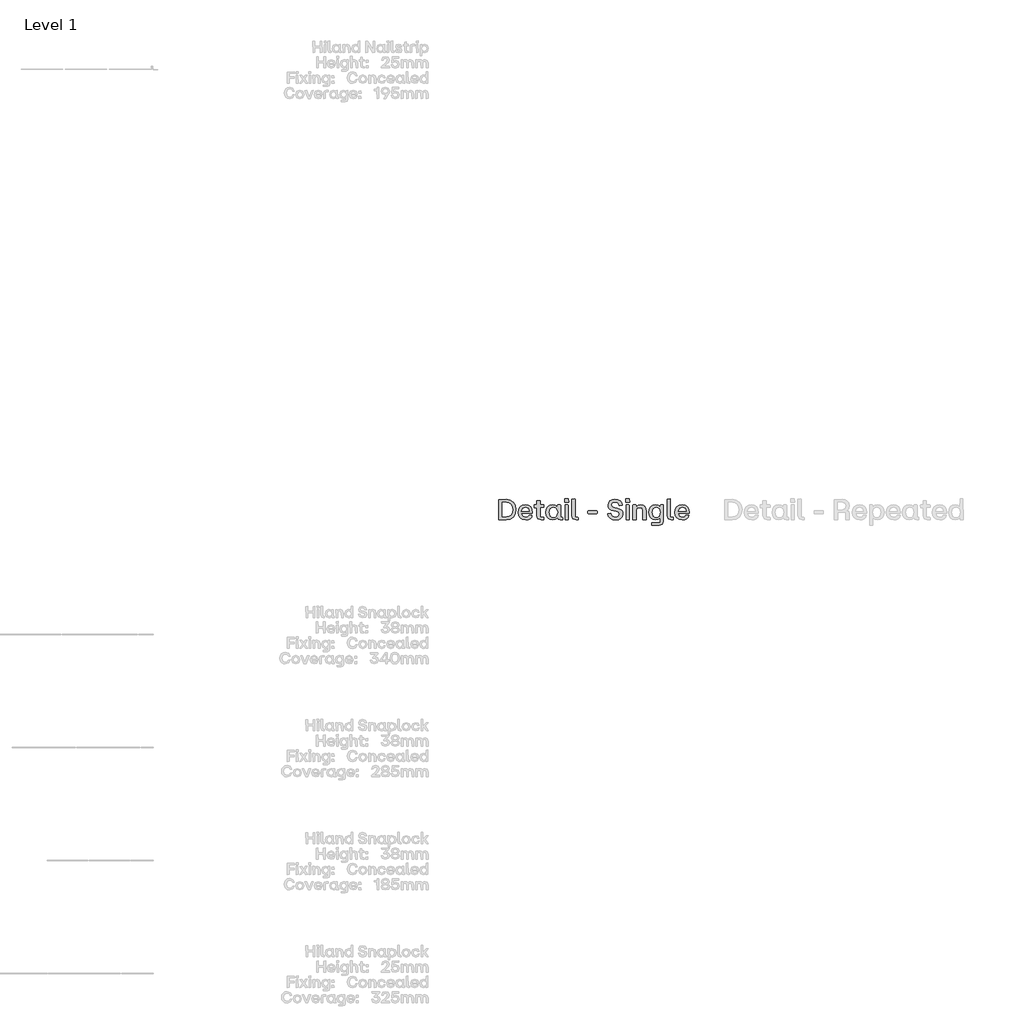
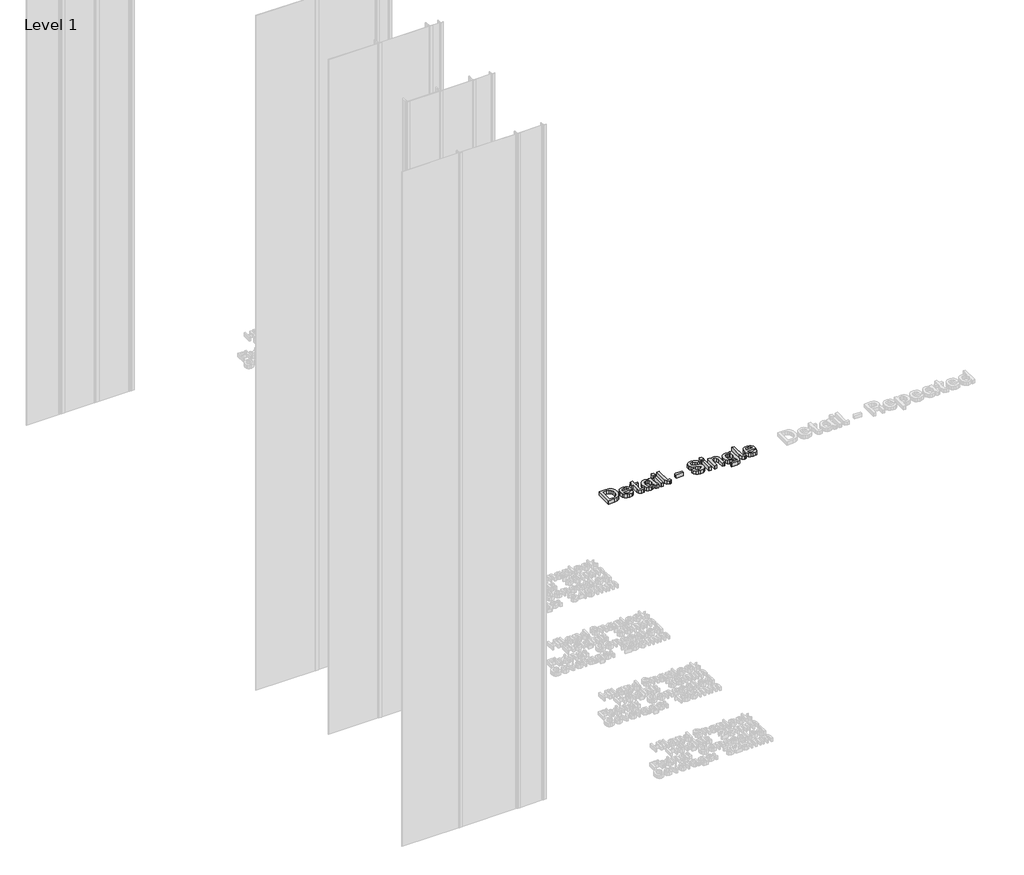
# One storey, part 22 of 64: 1 proxy.
"""IFC4 building model written with IfcOpenShell, lengths in millimetres."""

from ifc_helpers import new_model, si_unit, origin, origin_with_axes, place, context, project, spatial, polyline, outline, extrude, element, save

model = new_model("IFC4")

# Units and contexts
model_context = context("Model", 3, world=origin())
ifc_project = project(units=[si_unit("LENGTHUNIT", "METRE", prefix="MILLI")], contexts=[model_context])

# Site, building, storey
site = spatial("IfcSite", under=ifc_project)
building = spatial("IfcBuilding", under=site)
storey = spatial("IfcBuildingStorey", under=building, Name="Level 1", Elevation=0.0)

# Proxy
placement = place(None, origin())
element("IfcBuildingElementProxy", 1, Name="90mm", ObjectType="90mm", at=placement, inside=storey, context=model_context, shape_type="SweptSolid", body=[
    extrude(outline(polyline([(3310.2926176, -6500.0), (3308.9872124, -6498.7448027), (3308.9872124, -6411.3077612), (3342.5511873, -6410.002356), (3360.5475781, -6413.0054155), (3374.1193986, -6422.0145938), (3382.63905, -6436.3583606), (3385.4789338, -6455.3651852), (3382.648464, -6474.2025582), (3374.1570545, -6488.2890095), (3360.594648, -6497.0722524), (3342.5511873, -6500.0), (3310.2926176, -6500.0)]), holes=[polyline([(3323.7985402, -6487.3727155), (3341.6725492, -6487.3727155), (3353.8950326, -6485.311054), (3362.9481429, -6479.1260695), (3368.5494607, -6469.0625254), (3370.4165666, -6455.3651852), (3368.5431847, -6441.5109454), (3362.923039, -6431.1775339), (3353.8636527, -6424.7477859), (3341.6725492, -6422.6045366), (3323.7985402, -6422.6045366), (3323.7985402, -6487.3727155)])]), origin_with_axes(), (0.0, 0.0, 1.0), 20.0),
    extrude(outline(polyline([(3427.628458, -6500.7531184), (3414.0409476, -6498.4843493), (3403.5035666, -6491.6780421), (3396.7443293, -6481.0622112), (3394.4912502, -6467.3648711), (3396.7349153, -6453.5012173), (3403.4659107, -6442.7881086), (3413.9938777, -6435.9347315), (3427.628458, -6433.6502725), (3440.1584647, -6435.9033516), (3449.7324819, -6442.6625889), (3455.8044987, -6453.3129377), (3457.8285043, -6467.2393514), (3457.8285043, -6470.6785919), (3456.573307, -6472.009101), (3409.1268503, -6472.009101), (3414.6497183, -6484.6865934), (3427.628458, -6489.2053035), (3438.0465953, -6486.9082925), (3443.4439436, -6480.4691305), (3444.8246606, -6479.4147648), (3456.1967478, -6479.4147648), (3454.1633282, -6488.7314665), (3447.8120301, -6495.1925945), (3438.8248176, -6499.3629874), (3427.628458, -6500.7531184)]), holes=[polyline([(3409.2523701, -6461.5909637), (3443.8205028, -6461.5909637), (3439.0633051, -6449.6289337), (3427.628458, -6445.2733992), (3414.8631018, -6449.4155502), (3409.2523701, -6461.5909637)])]), origin_with_axes(), (0.0, 0.0, 1.0), 20.0),
    extrude(outline(polyline([(3496.6140998, -6500.0), (3482.731618, -6495.2302504), (3477.9618684, -6481.3477686), (3477.9618684, -6445.7754781), (3466.7906127, -6445.7754781), (3465.4852076, -6435.7339), (3466.7906127, -6434.4787027), (3477.9618684, -6434.4787027), (3477.9618684, -6416.45407), (3479.2170657, -6415.1486648), (3490.9657121, -6415.1486648), (3492.2209094, -6416.45407), (3492.2209094, -6434.4787027), (3508.0363949, -6434.4787027), (3509.3418001, -6435.7339), (3509.3418001, -6444.444969), (3492.2209094, -6445.7754781), (3492.2209094, -6488.7032246), (3508.0363949, -6488.7032246), (3509.3418001, -6489.9584219), (3509.3418001, -6498.7448027), (3508.0363949, -6500.0), (3496.6140998, -6500.0)])), origin_with_axes(), (0.0, 0.0, 1.0), 20.0),
    extrude(outline(polyline([(3547.2738615, -6500.7531184), (3535.3243835, -6498.4843493), (3526.0861316, -6491.6780421), (3520.1741525, -6481.0622112), (3518.2034928, -6467.3648711), (3520.1741525, -6453.5325972), (3526.0861316, -6442.8132125), (3535.3243835, -6435.9410075), (3547.2738615, -6433.6502725), (3559.1856835, -6436.5372262), (3568.160344, -6444.444969), (3568.7377347, -6435.7339), (3569.992932, -6434.4787027), (3581.6662665, -6434.4787027), (3582.9716717, -6435.7339), (3582.9716717, -6488.7032246), (3590.0760882, -6488.7032246), (3591.3312855, -6489.9584219), (3591.3312855, -6498.7448027), (3590.0760882, -6500.0), (3580.536589, -6500.0), (3572.1581473, -6497.6465051), (3569.3653333, -6490.5860205), (3559.7254183, -6497.8661646), (3547.2738615, -6500.7531184)]), holes=[polyline([(3532.7135732, -6467.3648711), (3537.6716024, -6483.3686362), (3543.5365116, -6487.7461367), (3551.2151809, -6489.2053035), (3558.7714684, -6487.7524127), (3564.470064, -6483.3937402), (3569.2398136, -6467.3648711), (3564.4324081, -6451.1728263), (3558.7243985, -6446.748256), (3551.2151809, -6445.2733992), (3543.5365116, -6446.748256), (3537.6716024, -6451.1728263), (3532.7135732, -6467.3648711)])]), origin_with_axes(), (0.0, 0.0, 1.0), 20.0),
    extrude(outline(polyline([(3603.6824266, -6500.0), (3602.3770214, -6498.7448027), (3602.3770214, -6435.7339), (3603.6824266, -6434.4787027), (3615.3557612, -6434.4787027), (3616.6109584, -6435.7339), (3616.6109584, -6498.7448027), (3615.3557612, -6500.0), (3603.6824266, -6500.0)])), origin_with_axes(), (0.0, 0.0, 1.0), 20.0),
    extrude(outline(polyline([(3601.3728636, -6421.8514182), (3601.3728636, -6407.9940404), (3602.6280609, -6406.6635313), (3616.4854387, -6406.6635313), (3617.8159478, -6421.8514182), (3616.4854387, -6423.1066155), (3602.6280609, -6423.1066155), (3601.3728636, -6421.8514182)])), origin_with_axes(), (0.0, 0.0, 1.0), 20.0),
    extrude(outline(polyline([(3651.5305464, -6500.0), (3637.6731686, -6495.2302504), (3632.903419, -6481.3477686), (3632.903419, -6408.7471587), (3645.8821587, -6407.4166496), (3647.137356, -6408.7471587), (3647.137356, -6488.7032246), (3659.1370418, -6488.7032246), (3660.3922391, -6489.9584219), (3660.3922391, -6498.7448027), (3659.1370418, -6500.0), (3651.5305464, -6500.0)])), origin_with_axes(), (0.0, 0.0, 1.0), 20.0),
    extrude(outline(polyline([(3705.1776775, -6472.887739), (3703.9224803, -6471.5572299), (3703.9224803, -6461.5909637), (3705.1776775, -6460.2604546), (3743.7875455, -6460.2604546), (3745.0427427, -6461.5909637), (3745.0427427, -6471.5572299), (3743.7875455, -6472.887739), (3705.1776775, -6472.887739)])), origin_with_axes(), (0.0, 0.0, 1.0), 20.0),
    extrude(outline(polyline([(3826.3293177, -6500.7531184), (3812.5598037, -6498.9017024), (3801.8780749, -6493.3474545), (3794.6167588, -6484.372794), (3791.1084824, -6472.2601404), (3804.3633655, -6470.8041116), (3805.6687707, -6472.009101), (3811.8568932, -6484.5610736), (3826.3293177, -6488.4521852), (3838.8436344, -6484.8748729), (3843.3246887, -6474.9462626), (3840.2243514, -6466.6996165), (3829.84387, -6462.5951215), (3817.9697039, -6460.511494), (3806.9647619, -6457.2573951), (3799.104089, -6451.9384967), (3794.3876853, -6444.5547988), (3792.8155507, -6435.1063013), (3794.8301423, -6424.2645349), (3800.8739171, -6416.0900628), (3810.5263841, -6410.9594439), (3823.3670521, -6409.2492376), (3836.1010284, -6410.9814099), (3846.0359148, -6416.1779266), (3852.826532, -6424.5312644), (3856.1277008, -6435.7339), (3842.9481295, -6437.1648249), (3841.5172046, -6435.7339), (3835.7056413, -6425.0270673), (3823.3670521, -6421.6003787), (3811.6058538, -6424.7383719), (3807.5515666, -6433.901312), (3811.1665347, -6442.599829), (3822.4884141, -6447.1561951), (3834.2872684, -6449.2147186), (3845.1070688, -6452.3840917), (3852.4625248, -6457.4739166), (3856.6799876, -6464.8042687), (3858.0858085, -6474.6952231), (3855.9739391, -6485.6091633), (3849.6383309, -6493.8495334), (3839.5873388, -6499.0272221), (3826.3293177, -6500.7531184)])), origin_with_axes(), (0.0, 0.0, 1.0), 20.0),
    extrude(outline(polyline([(3871.2904838, -6421.8514182), (3871.2904838, -6407.9940404), (3872.545681, -6406.6635313), (3886.4030589, -6406.6635313), (3887.733568, -6421.8514182), (3886.4030589, -6423.1066155), (3872.545681, -6423.1066155), (3871.2904838, -6421.8514182)])), origin_with_axes(), (0.0, 0.0, 1.0), 20.0),
    extrude(outline(polyline([(3873.6000467, -6500.0), (3872.2946416, -6498.7448027), (3872.2946416, -6435.7339), (3873.6000467, -6434.4787027), (3885.2733813, -6434.4787027), (3886.5285786, -6435.7339), (3886.5285786, -6498.7448027), (3885.2733813, -6500.0), (3873.6000467, -6500.0)])), origin_with_axes(), (0.0, 0.0, 1.0), 20.0),
    extrude(outline(polyline([(3904.1264443, -6500.0), (3902.8210391, -6498.7448027), (3902.8210391, -6435.7339), (3904.1264443, -6434.4787027), (3915.1721802, -6434.4787027), (3916.4273775, -6435.7339), (3916.4273775, -6444.444969), (3925.7221132, -6436.3489466), (3937.6402113, -6433.6502725), (3947.5656836, -6435.5330684), (3954.8489658, -6441.1814561), (3959.320606, -6450.4573639), (3960.8111528, -6463.2227201), (3960.8111528, -6498.7448027), (3959.4806437, -6500.0), (3947.8073091, -6500.0), (3946.501904, -6498.7448027), (3946.501904, -6463.2227201), (3942.9873516, -6449.942733), (3931.8788558, -6445.7754781), (3920.6699442, -6450.0054929), (3917.0549761, -6463.2227201), (3917.0549761, -6498.7448027), (3915.7997788, -6500.0), (3904.1264443, -6500.0)])), origin_with_axes(), (0.0, 0.0, 1.0), 20.0),
    extrude(outline(polyline([(3986.5175928, -6524.4010349), (3985.1870837, -6523.1458376), (3985.1870837, -6514.3594567), (3986.5175928, -6513.1042595), (4023.4203924, -6513.1042595), (4023.4203924, -6489.9584219), (4013.8683412, -6497.8661646), (4001.9565192, -6500.7531184), (3990.0070412, -6498.4686593), (3980.7687893, -6491.6152823), (3974.8568102, -6480.9210016), (3972.8861505, -6467.1138316), (3974.8568102, -6453.3913875), (3980.7687893, -6442.7504527), (3990.0070412, -6435.9253176), (4001.9565192, -6433.6502725), (4014.4080761, -6436.5372262), (4023.5459122, -6444.3194493), (4024.0479911, -6435.7339), (4025.3031883, -6434.4787027), (4036.3489243, -6434.4787027), (4037.6543294, -6435.7339), (4037.6543294, -6506.4015061), (4033.0100996, -6519.7944609), (4019.6548006, -6524.4010349), (3986.5175928, -6524.4010349)]), holes=[polyline([(3987.3962309, -6467.1138316), (3992.3542601, -6483.3058764), (3998.2191693, -6487.7304467), (4005.8978386, -6489.2053035), (4013.4070562, -6487.7304467), (4019.1150658, -6483.3058764), (4023.9224713, -6467.1138316), (4019.1527217, -6451.0724106), (4013.4541261, -6446.723152), (4005.8978386, -6445.2733992), (3998.2191693, -6446.732566), (3992.3542601, -6451.1100665), (3987.3962309, -6467.1138316)])]), origin_with_axes(), (0.0, 0.0, 1.0), 20.0),
    extrude(outline(polyline([(4072.4735016, -6500.0), (4058.6161238, -6495.2302504), (4053.8463742, -6481.3477686), (4053.8463742, -6408.7471587), (4066.8251139, -6407.4166496), (4068.0803112, -6408.7471587), (4068.0803112, -6488.7032246), (4080.079997, -6488.7032246), (4081.3351943, -6489.9584219), (4081.3351943, -6498.7448027), (4080.079997, -6500.0), (4072.4735016, -6500.0)])), origin_with_axes(), (0.0, 0.0, 1.0), 20.0),
    extrude(outline(polyline([(4121.7023384, -6500.7531184), (4108.114828, -6498.4843493), (4097.5774469, -6491.6780421), (4090.8182097, -6481.0622112), (4088.5651306, -6467.3648711), (4090.8087957, -6453.5012173), (4097.539791, -6442.7881086), (4108.0677581, -6435.9347315), (4121.7023384, -6433.6502725), (4134.2323451, -6435.9033516), (4143.8063622, -6442.6625889), (4149.878379, -6453.3129377), (4151.9023846, -6467.2393514), (4151.9023846, -6470.6785919), (4150.6471873, -6472.009101), (4103.2007307, -6472.009101), (4108.7235987, -6484.6865934), (4121.7023384, -6489.2053035), (4132.1204757, -6486.9082925), (4137.5178239, -6480.4691305), (4138.8985409, -6479.4147648), (4150.2706282, -6479.4147648), (4148.2372086, -6488.7314665), (4141.8859104, -6495.1925945), (4132.898698, -6499.3629874), (4121.7023384, -6500.7531184)]), holes=[polyline([(4103.3262504, -6461.5909637), (4137.8943831, -6461.5909637), (4133.1371855, -6449.6289337), (4121.7023384, -6445.2733992), (4108.9369822, -6449.4155502), (4103.3262504, -6461.5909637)])]), origin_with_axes(), (0.0, 0.0, 1.0), 20.0),
])

save(model, "model.ifc")
